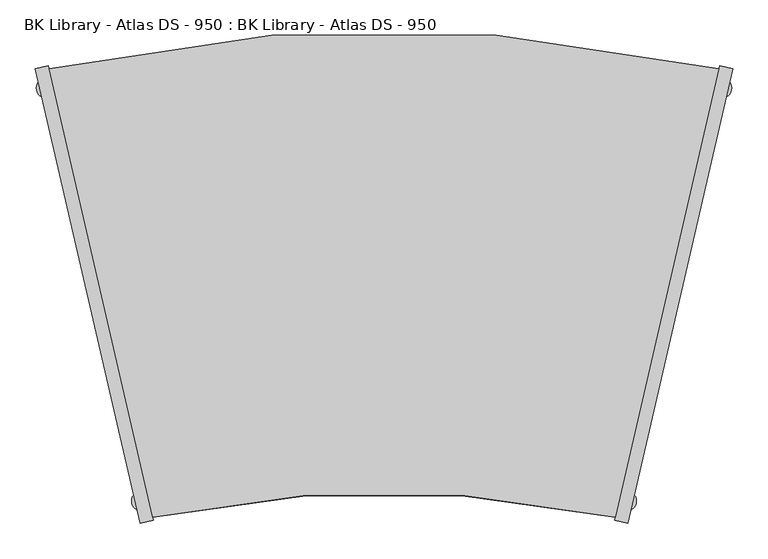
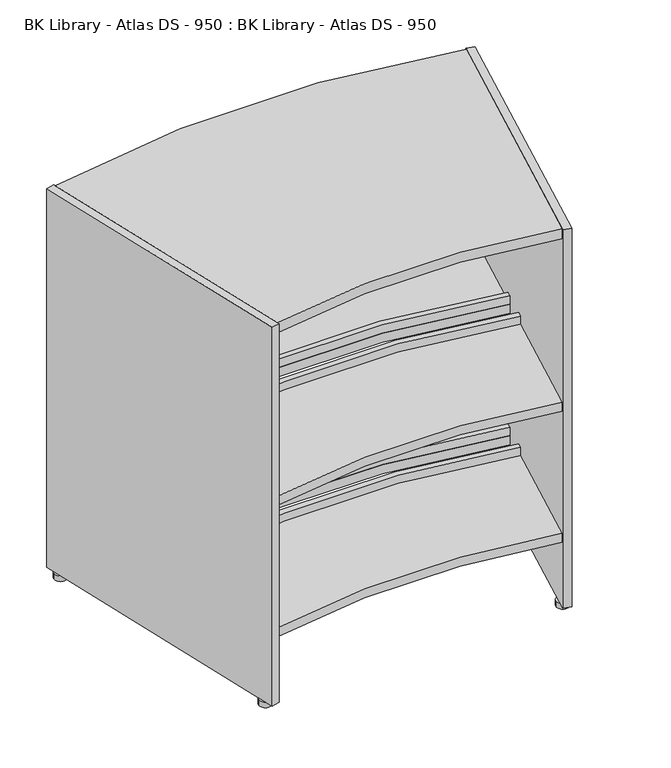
"""IFC4 building model written with IfcOpenShell, lengths in millimetres: furniture geometry, BK Library - Atlas DS - 950 : BK Library - Atlas DS - 950."""

from ifc_helpers import new_model, si_unit, point, frame, frame_2d, origin, origin_with_axes, place, context, project, spatial, polyline, circle_curve, trimmed, segment, composite_curve, outline, extrude, source, transform, mapped, element, save


def bk_library_atlas_ds_950_bk_library_atlas_ds_950_578a3dcb(model_context):
    return source(origin(), model_context, "Body", "SweptSolid", [
        extrude(outline(composite_curve([segment(trimmed(circle_curve(frame_2d((0.0, -1777.8812307)), 2148.52767), [point((-474.1962162, 317.663829))], [point((474.1962162, 317.663829))], False, "CARTESIAN"), True, "CONTINUOUS"), segment(polyline([(474.1962162, 317.663829), (327.6944521, -317.663829)]), True, "CONTINUOUS"), segment(trimmed(circle_curve(frame_2d((0.0, -1840.4430404)), 1557.6392973), [point((327.6944521, -317.663829))], [point((-327.6944521, -317.663829))], True, "CARTESIAN"), True, "CONTINUOUS"), segment(polyline([(-327.6944521, -317.663829), (-474.1962162, 317.663829)]), True, "CONTINUOUS")], self_intersect=False)), frame((0.0, 0.0, 912.0), z_axis=(0.0, 0.0, 1.0), x_axis=(1.0, 0.0, 0.0)), (0.0, 0.0, 1.0), 24.0),
        extrude(outline(composite_curve([segment(trimmed(circle_curve(frame_2d((0.0, -1840.4430404)), 1557.6392973), [point((327.6944521, -317.663829))], [point((-327.6944521, -317.663829))], True, "CARTESIAN"), True, "CONTINUOUS"), segment(polyline([(-327.6944521, -317.663829), (-394.2058088, -29.2269986)]), True, "CONTINUOUS"), segment(trimmed(circle_curve(frame_2d((0.0, -1785.1487517)), 1799.627579), [point((-394.2058088, -29.2269986))], [point((394.2058088, -29.2269986))], False, "CARTESIAN"), True, "CONTINUOUS"), segment(polyline([(394.2058088, -29.2269986), (327.6944521, -317.663829)]), True, "CONTINUOUS")], self_intersect=False)), frame((0.0, 0.0, 171.6999998), z_axis=(0.0, 0.0, 1.0), x_axis=(1.0, 0.0, 0.0)), (0.0, 0.0, 1.0), 22.0),
        extrude(outline(composite_curve([segment(trimmed(circle_curve(frame_2d((0.0, -1777.8812307)), 2148.52767), [point((-474.1962162, 317.663829))], [point((474.1962162, 317.663829))], False, "CARTESIAN"), True, "CONTINUOUS"), segment(polyline([(474.1962162, 317.663829), (407.6853202, 29.2289965)]), True, "CONTINUOUS"), segment(trimmed(circle_curve(frame_2d((0.0, -1798.2835703)), 1872.4341116), [point((407.6853202, 29.2289965))], [point((-407.6853202, 29.2289965))], True, "CARTESIAN"), True, "CONTINUOUS"), segment(polyline([(-407.6853202, 29.2289965), (-474.1962162, 317.663829)]), True, "CONTINUOUS")], self_intersect=False)), frame((0.0, 0.0, 171.6999998), z_axis=(0.0, 0.0, 1.0), x_axis=(1.0, 0.0, 0.0)), (0.0, 0.0, 1.0), 22.0),
        extrude(outline(composite_curve([segment(trimmed(circle_curve(frame_2d((0.0, -1840.4430404)), 1557.6392973), [point((327.6944521, -317.663829))], [point((-327.6944521, -317.663829))], True, "CARTESIAN"), True, "CONTINUOUS"), segment(polyline([(-327.6944521, -317.663829), (-394.2058088, -29.2269986)]), True, "CONTINUOUS"), segment(trimmed(circle_curve(frame_2d((0.0, -1785.1487517)), 1799.627579), [point((-394.2058088, -29.2269986))], [point((394.2058088, -29.2269986))], False, "CARTESIAN"), True, "CONTINUOUS"), segment(polyline([(394.2058088, -29.2269986), (327.6944521, -317.663829)]), True, "CONTINUOUS")], self_intersect=False)), frame((0.0, 0.0, 491.6999998), z_axis=(0.0, 0.0, 1.0), x_axis=(1.0, 0.0, 0.0)), (0.0, 0.0, 1.0), 22.0),
        extrude(outline(composite_curve([segment(trimmed(circle_curve(frame_2d((0.0, -1777.8812307)), 2148.52767), [point((-474.1962162, 317.663829))], [point((474.1962162, 317.663829))], False, "CARTESIAN"), True, "CONTINUOUS"), segment(polyline([(474.1962162, 317.663829), (407.6853202, 29.2289965)]), True, "CONTINUOUS"), segment(trimmed(circle_curve(frame_2d((0.0, -1798.2835703)), 1872.4341116), [point((407.6853202, 29.2289965))], [point((-407.6853202, 29.2289965))], True, "CARTESIAN"), True, "CONTINUOUS"), segment(polyline([(-407.6853202, 29.2289965), (-474.1962162, 317.663829)]), True, "CONTINUOUS")], self_intersect=False)), frame((0.0, 0.0, 491.6999998), z_axis=(0.0, 0.0, 1.0), x_axis=(1.0, 0.0, 0.0)), (0.0, 0.0, 1.0), 22.0),
        extrude(outline(composite_curve([segment(trimmed(circle_curve(frame_2d((0.0, -1785.1487517)), 1799.627579), [point((-394.2058088, -29.2269986))], [point((394.2058088, -29.2269986))], False, "CARTESIAN"), True, "CONTINUOUS"), segment(polyline([(394.2058088, -29.2269986), (391.2848087, -41.8943694)]), True, "CONTINUOUS"), segment(trimmed(circle_curve(frame_2d((0.0, -1790.5831955)), 1791.9309172), [point((391.2848087, -41.8943694))], [point((-391.2848087, -41.8943694))], True, "CARTESIAN"), True, "CONTINUOUS"), segment(polyline([(-391.2848087, -41.8943694), (-394.2058088, -29.2269986)]), True, "CONTINUOUS")], self_intersect=False)), frame((0.0, 0.0, 193.6999998), z_axis=(0.0, 0.0, 1.0), x_axis=(1.0, 0.0, 0.0)), (0.0, 0.0, 1.0), 20.0),
        extrude(outline(composite_curve([segment(trimmed(circle_curve(frame_2d((0.0, -1776.6858327)), 1864.3585062), [point((-410.605951, 41.8947656))], [point((410.605951, 41.8947656))], False, "CARTESIAN"), True, "CONTINUOUS"), segment(polyline([(410.605951, 41.8947656), (407.6853202, 29.2289965)]), True, "CONTINUOUS"), segment(trimmed(circle_curve(frame_2d((0.0, -1798.2835703)), 1872.4341116), [point((407.6853202, 29.2289965))], [point((-407.6853202, 29.2289965))], True, "CARTESIAN"), True, "CONTINUOUS"), segment(polyline([(-407.6853202, 29.2289965), (-410.605951, 41.8947656)]), True, "CONTINUOUS")], self_intersect=False)), frame((0.0, 0.0, 193.6999998), z_axis=(0.0, 0.0, 1.0), x_axis=(1.0, 0.0, 0.0)), (0.0, 0.0, 1.0), 20.0),
        extrude(outline(composite_curve([segment(trimmed(circle_curve(frame_2d((0.0, -1785.1487517)), 1799.627579), [point((-394.2058088, -29.2269986))], [point((394.2058088, -29.2269986))], False, "CARTESIAN"), True, "CONTINUOUS"), segment(polyline([(394.2058088, -29.2269986), (391.2848087, -41.8943694)]), True, "CONTINUOUS"), segment(trimmed(circle_curve(frame_2d((0.0, -1790.5831955)), 1791.9309172), [point((391.2848087, -41.8943694))], [point((-391.2848087, -41.8943694))], True, "CARTESIAN"), True, "CONTINUOUS"), segment(polyline([(-391.2848087, -41.8943694), (-394.2058088, -29.2269986)]), True, "CONTINUOUS")], self_intersect=False)), frame((0.0, 0.0, 513.6999998), z_axis=(0.0, 0.0, 1.0), x_axis=(1.0, 0.0, 0.0)), (0.0, 0.0, 1.0), 20.0),
        extrude(outline(composite_curve([segment(trimmed(circle_curve(frame_2d((0.0, -1776.6858327)), 1864.3585062), [point((-410.605951, 41.8947656))], [point((410.605951, 41.8947656))], False, "CARTESIAN"), True, "CONTINUOUS"), segment(polyline([(410.605951, 41.8947656), (407.6853202, 29.2289965)]), True, "CONTINUOUS"), segment(trimmed(circle_curve(frame_2d((0.0, -1798.2835703)), 1872.4341116), [point((407.6853202, 29.2289965))], [point((-407.6853202, 29.2289965))], True, "CARTESIAN"), True, "CONTINUOUS"), segment(polyline([(-407.6853202, 29.2289965), (-410.605951, 41.8947656)]), True, "CONTINUOUS")], self_intersect=False)), frame((0.0, 0.0, 513.6999998), z_axis=(0.0, 0.0, 1.0), x_axis=(1.0, 0.0, 0.0)), (0.0, 0.0, 1.0), 20.0),
        extrude(outline(polyline([(-345.3098178, -325.8307679), (-493.6091495, 317.2923215), (-475.095, 321.5615447), (-326.7956683, -321.5615447), (-345.3098178, -325.8307679)])), frame((0.0, 0.0, 13.6999998), z_axis=(0.0, 0.0, 1.0), x_axis=(1.0, 0.0, 0.0)), (0.0, 0.0, 1.0), 922.3000002),
        extrude(outline(polyline([(475.095, 321.5615447), (493.6091495, 317.2923215), (345.3098178, -325.8307679), (326.7956683, -321.5615447), (475.095, 321.5615447)])), frame((0.0, 0.0, 13.6999998), z_axis=(0.0, 0.0, 1.0), x_axis=(1.0, 0.0, 0.0)), (0.0, 0.0, 1.0), 922.3000002),
        extrude(outline(composite_curve([segment(trimmed(circle_curve(frame_2d((477.608406, 290.1883722)), 14.4994573), [point((492.1078633, 290.1883722))], [point((463.1089486, 290.1883722))], False, "CARTESIAN"), True, "CONTINUOUS"), segment(trimmed(circle_curve(frame_2d((477.608406, 290.1883722)), 14.4994573), [point((463.1089486, 290.1883722))], [point((492.1078633, 290.1883722))], False, "CARTESIAN"), True, "CONTINUOUS")], self_intersect=False)), origin_with_axes(), (0.0, 0.0, 1.0), 13.6999998),
        extrude(outline(composite_curve([segment(trimmed(circle_curve(frame_2d((-477.608406, 290.1883722)), 14.4994573), [point((-492.1078633, 290.1883722))], [point((-463.1089486, 290.1883722))], False, "CARTESIAN"), True, "CONTINUOUS"), segment(trimmed(circle_curve(frame_2d((-477.608406, 290.1883722)), 14.4994573), [point((-463.1089486, 290.1883722))], [point((-492.1078633, 290.1883722))], False, "CARTESIAN"), True, "CONTINUOUS")], self_intersect=False)), origin_with_axes(), (0.0, 0.0, 1.0), 13.6999998),
        extrude(outline(composite_curve([segment(trimmed(circle_curve(frame_2d((342.7923392, -294.4590973)), 14.4994573), [point((357.2917965, -294.4590973))], [point((328.2928818, -294.4590973))], False, "CARTESIAN"), True, "CONTINUOUS"), segment(trimmed(circle_curve(frame_2d((342.7923392, -294.4590973)), 14.4994573), [point((328.2928818, -294.4590973))], [point((357.2917965, -294.4590973))], False, "CARTESIAN"), True, "CONTINUOUS")], self_intersect=False)), origin_with_axes(), (0.0, 0.0, 1.0), 13.6999998),
        extrude(outline(composite_curve([segment(trimmed(circle_curve(frame_2d((-342.7923392, -294.4590973)), 14.4994573), [point((-357.2917965, -294.4590973))], [point((-328.2928818, -294.4590973))], False, "CARTESIAN"), True, "CONTINUOUS"), segment(trimmed(circle_curve(frame_2d((-342.7923392, -294.4590973)), 14.4994573), [point((-328.2928818, -294.4590973))], [point((-357.2917965, -294.4590973))], False, "CARTESIAN"), True, "CONTINUOUS")], self_intersect=False)), origin_with_axes(), (0.0, 0.0, 1.0), 13.6999998),
    ])


if __name__ == "__main__":
    model = new_model("IFC4")
    model_context = context("Model", 3, world=origin())
    ifc_project = project(units=[si_unit("LENGTHUNIT", "METRE", prefix="MILLI")], contexts=[model_context])
    site = spatial("IfcSite", under=ifc_project)
    building = spatial("IfcBuilding", under=site)
    placement = place(None, origin())
    bk_library_atlas_ds_950_bk_library_atlas_ds_950_shape = bk_library_atlas_ds_950_bk_library_atlas_ds_950_578a3dcb(model_context)
    element("IfcFurniture", 1, ObjectType="BK Library - Atlas DS - 950 : BK Library - Atlas DS - 950", at=placement, inside=building, context=model_context, shape_type="MappedRepresentation", body=[
        mapped(bk_library_atlas_ds_950_bk_library_atlas_ds_950_shape, transform((0.0, 0.0, 0.0), x_axis=(1.0, 0.0, 0.0), y_axis=(0.0, 1.0, 0.0), z_axis=(0.0, 0.0, 1.0))),
    ])
    save(model, "model.ifc")
